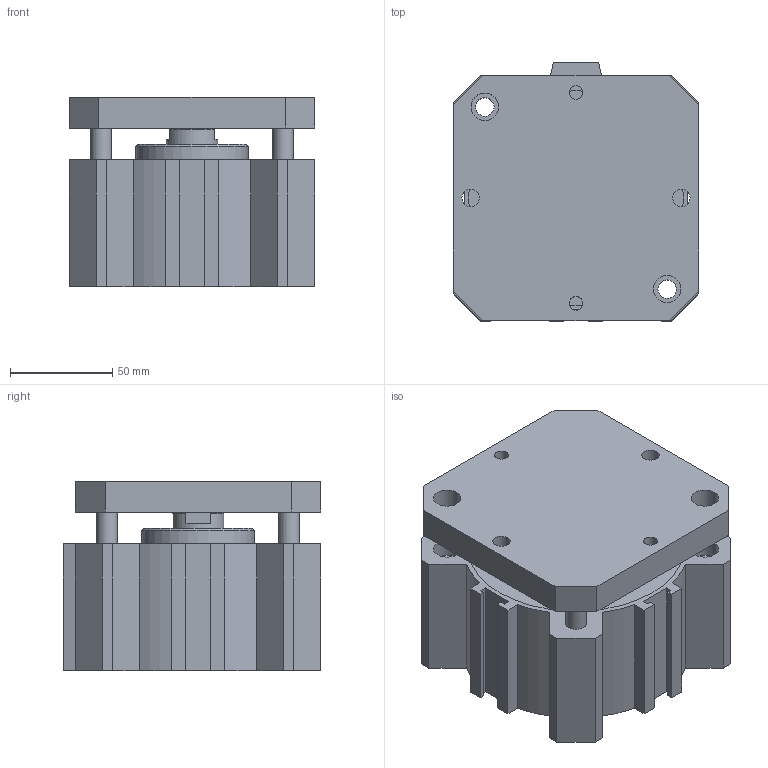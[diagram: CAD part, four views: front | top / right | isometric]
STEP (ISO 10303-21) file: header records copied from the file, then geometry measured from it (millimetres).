
FILE_DESCRIPTION(/* description */ (''),/* implementation_level */ '2;1');
FILE_NAME(/* name */ 'I:\Area Tecnica\Disegni\VARIE-3D\Componenti\1500\Ø100\15##_100_####_#\1501_100_0015_AR.stp',/* time_stamp */ '2016-08-24T15:09:13+02:00',/* author */ ('Maniean1'),/* organization */ (''),/* preprocessor_version */ 'ST-DEVELOPER v15.2',/* originating_system */ 'Autodesk Inventor 2014',/* authorisation */ '');
FILE_SCHEMA (('AUTOMOTIVE_DESIGN { 1 0 10303 214 3 1 1 }'));
Length unit declared in the file: millimetre
Products named in the file (3): C_1501_100_0015_AR; S_1501_100_0015_AR; 1501_100_0015_AR
Bounding box: 120 x 126 x 92.5 mm (x, y, z)
Volume: 815549 mm3; surface area: 165634.1 mm2
Topology: 2 solids, 2 shells, 139 faces, 342 edges, 229 vertices
Faces by surface type: plane 94, cylinder 40, cone 5
Full cylindrical faces by diameter (mm): 6.647 x2, 8.5 x2, 9 x4, 10 x4, 13.5 x10, 14.95 x2, 25 x2, 55 x2, 100 x2, 105 x2
Entity records: 3978 total; most frequent: CARTESIAN_POINT 674, DIRECTION 672, ORIENTED_EDGE 600, EDGE_CURVE 300, AXIS2_PLACEMENT_3D 232, VERTEX_POINT 222, EDGE_LOOP 216, LINE 208
